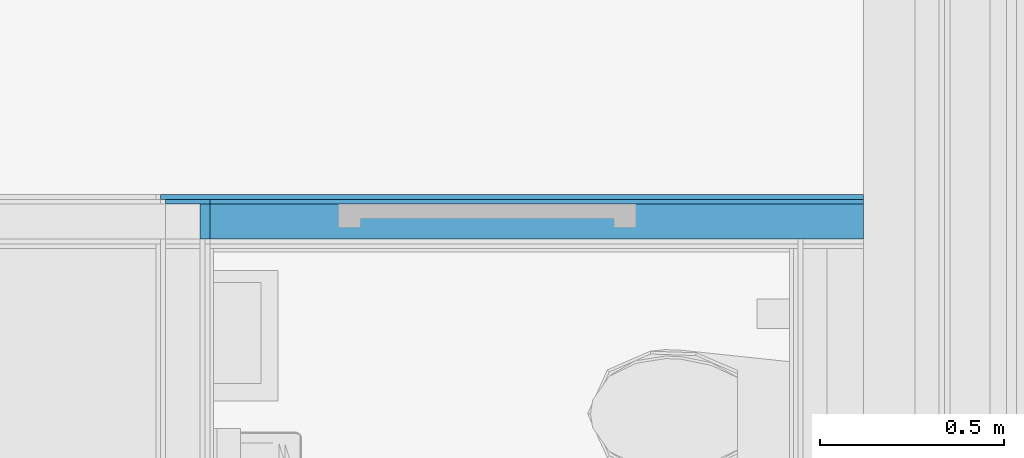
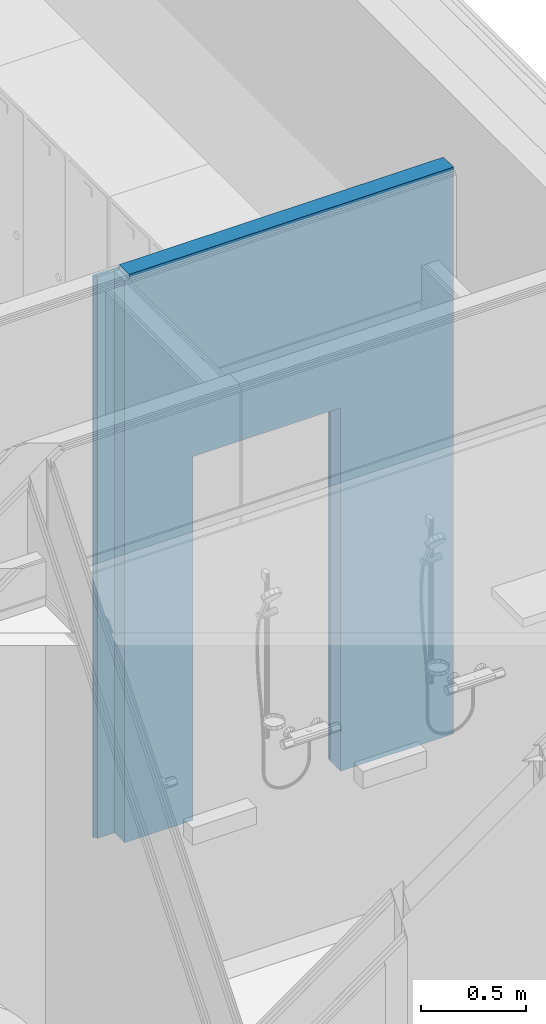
# One storey, part 83 of 153: 3 building element parts, 1 opening, 1 element without a shape of its own.
"""IFC2X3 building model written with IfcOpenShell, lengths in millimetres."""

from ifc_helpers import new_model, entity, si_unit, converted_unit, derived_unit, money_unit, direction, frame, origin_with_axes, place, context, subcontext, project, spatial, faceted_brep, material, type_object, element, aggregate, save


model = new_model("IFC2X3")

# Units and contexts
model_context = context("Model", 3, precision=0.01, world=origin_with_axes(), true_north=direction((0.0, 1.0)))
body_context = subcontext(model_context, "Body", "Model", "MODEL_VIEW")
ifc_project = project(units=[si_unit("LENGTHUNIT", "METRE", prefix="MILLI"), si_unit("AREAUNIT", "SQUARE_METRE"), si_unit("VOLUMEUNIT", "CUBIC_METRE"), converted_unit("PLANEANGLEUNIT", "DEGREE", entity("IfcPlaneAngleMeasure", 0.0174532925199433), si_unit("PLANEANGLEUNIT", "RADIAN"), dimensions=[0, 0, 0, 0, 0, 0, 0]), money_unit("EUR"), converted_unit("TIMEUNIT", "Year", entity("IfcTimeMeasure", 31557600.0), si_unit("TIMEUNIT", "SECOND"), dimensions=[0, 0, 1, 0, 0, 0, 0]), si_unit("MASSUNIT", "GRAM", prefix="KILO"), si_unit("THERMODYNAMICTEMPERATUREUNIT", "DEGREE_CELSIUS"), si_unit("LUMINOUSINTENSITYUNIT", "LUMEN"), si_unit("ENERGYUNIT", "JOULE", prefix="MEGA"), derived_unit("THERMALCONDUCTANCEUNIT", [(si_unit("POWERUNIT", "WATT"), 1), (si_unit("LENGTHUNIT", "METRE"), -1), (si_unit("THERMODYNAMICTEMPERATUREUNIT", "KELVIN"), -1)]), derived_unit("SPECIFICHEATCAPACITYUNIT", [(si_unit("ENERGYUNIT", "JOULE"), 1), (si_unit("MASSUNIT", "GRAM", prefix="KILO"), -1), (si_unit("THERMODYNAMICTEMPERATUREUNIT", "KELVIN"), -1)]), derived_unit("MASSDENSITYUNIT", [(si_unit("MASSUNIT", "GRAM", prefix="KILO"), 1), (si_unit("VOLUMEUNIT", "CUBIC_METRE"), -1)])], contexts=[model_context])

# Site, building, storey
site_placement = place(None, frame((0.0, 0.0, 8650.0), z_axis=(0.0, 0.0, 1.0), x_axis=(1.0, 0.0, 0.0)))
site = spatial("IfcSite", under=ifc_project, at=site_placement, Name="43301:001:0844", CompositionType="ELEMENT")
building_placement = place(site_placement, origin_with_axes())
building = spatial("IfcBuilding", under=site, at=building_placement, Name="Kuressaare Ametikooli tuulikute mehaanikute õppekorpus", CompositionType="ELEMENT")
storey_placement = place(building_placement, frame((0.0, 0.0, 4100.0), z_axis=(0.0, 0.0, 1.0), x_axis=(1.0, 0.0, 0.0)))
storey = spatial("IfcBuildingStorey", under=building, at=storey_placement, Name="2.korrus", CompositionType="ELEMENT", Elevation=4100.0)

# Wall, opening, building element parts
wall_type = type_object("IfcWallType", Name="SS-2.2 147", PredefinedType="NOTDEFINED")
wall_placement = place(storey_placement, frame((131245.1591945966, 21634.06892395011, 0.0), z_axis=(0.0, 0.0, 1.0), x_axis=(1.0, 0.0, 0.0)))
wall = element("IfcWall", 1, at=wall_placement, inside=storey, type_object=wall_type, Name="Sisesein")
opening_placement = place(wall_placement, frame((754.9999999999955, 0.0, 0.0), z_axis=(0.0, 0.0, 1.0), x_axis=(1.0, 0.0, 0.0)))
element("IfcOpeningElement", 2, at=opening_placement, cuts=wall, Name="PU8", context=body_context, shape_type="Brep", body=[
    faceted_brep([(-405.0000000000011, -147.9999999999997, 2110.0), (-405.0000000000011, -147.9999999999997, 0.0), (405.0000000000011, -147.9999999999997, 0.0), (405.0000000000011, -147.9999999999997, 2110.0), (-405.0000000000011, 1.000000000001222, 2110.0), (-405.0000000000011, 1.000000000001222, 0.0), (405.0000000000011, 1.000000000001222, 0.0), (405.0000000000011, 1.000000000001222, 2110.0)], [[[0, 1, 2, 3]], [[4, 5, 1, 0]], [[5, 6, 2, 1]], [[6, 7, 3, 2]], [[7, 4, 0, 3]], [[6, 5, 4, 7]]]),
])
ifc_material_1 = material(Name="Kipsplaat")
building_element_part_1_placement = place(wall_placement, origin_with_axes())
building_element_part_1 = element("IfcBuildingElementPart", 3, at=building_element_part_1_placement, material=ifc_material_1, Name="Kipsplaat", context=body_context, shape_type="Brep", body=[
    faceted_brep([(349.9999999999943, 0.0, 2110.0), (349.9999999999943, 0.0, 0.0), (-133.9999999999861, 0.0, 0.0), (-133.9999999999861, 0.0, 3259.999999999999), (0.0, 0.0, 3259.999999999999), (0.0, 0.0, 3260.712739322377), (1779.787244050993, 0.0, 3260.712739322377), (1779.787244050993, 0.0, 0.0), (1159.999999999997, 0.0, 0.0), (1159.999999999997, 0.0, 2110.0), (349.9999999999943, -12.99999999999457, 2110.0), (349.9999999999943, -13.00000000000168, 0.0), (-133.9999999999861, -13.00000000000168, 0.0), (-133.9999999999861, -12.99999999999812, 3259.999999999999), (0.0, -12.99999999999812, 3259.999999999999), (0.0, -12.99999999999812, 3260.712739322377), (1779.787244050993, -12.99999999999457, 3260.712739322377), (1779.787244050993, -12.99999999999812, 0.0), (1159.999999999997, -12.99999999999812, 0.0), (1159.999999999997, -12.99999999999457, 2110.0)], [[[0, 1, 2, 3, 4, 5, 6, 7, 8, 9]], [[1, 0, 10, 11]], [[1, 11, 12, 2]], [[13, 3, 2, 12]], [[3, 13, 14, 4]], [[5, 4, 14, 15]], [[6, 5, 15, 16]], [[16, 17, 7, 6]], [[18, 8, 7, 17]], [[9, 8, 18, 19]], [[0, 9, 19, 10]], [[19, 18, 17, 16, 15, 14, 13, 12, 11, 10]]]),
])
building_element_part_2_placement = place(wall_placement, origin_with_axes())
building_element_part_2 = element("IfcBuildingElementPart", 4, at=building_element_part_2_placement, material=ifc_material_1, Name="Kipsplaat", context=body_context, shape_type="Brep", body=[
    faceted_brep([(349.9999999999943, -12.99999999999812, 2110.0), (349.9999999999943, -13.00000000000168, 0.0), (-121.0000000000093, -13.00000000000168, 0.0), (-121.0000000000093, -13.00000000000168, 3259.999999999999), (0.0, -12.99999999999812, 3259.999999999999), (0.0, -12.99999999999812, 3275.712739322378), (1779.787244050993, -12.99999999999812, 3275.712739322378), (1779.787244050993, -12.99999999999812, 0.0), (1159.999999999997, -12.99999999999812, 0.0), (1159.999999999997, -12.99999999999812, 2110.0), (349.9999999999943, -25.9999999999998, 2110.0), (349.9999999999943, -25.9999999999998, 0.0), (-121.0000000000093, -25.9999999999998, 0.0), (-121.0000000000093, -25.9999999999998, 3259.999999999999), (0.0, -25.9999999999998, 3259.999999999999), (0.0, -25.9999999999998, 3275.712739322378), (1779.787244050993, -25.9999999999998, 3275.712739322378), (1779.787244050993, -25.9999999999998, 0.0), (1159.999999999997, -25.9999999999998, 0.0), (1159.999999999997, -25.9999999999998, 2110.0)], [[[0, 1, 2, 3, 4, 5, 6, 7, 8, 9]], [[1, 0, 10, 11]], [[1, 11, 12, 2]], [[13, 3, 2, 12]], [[3, 13, 14, 4]], [[5, 4, 14, 15]], [[6, 5, 15, 16]], [[16, 17, 7, 6]], [[18, 8, 7, 17]], [[9, 8, 18, 19]], [[0, 9, 19, 10]], [[19, 18, 17, 16, 15, 14, 13, 12, 11, 10]]]),
])
ifc_material_2 = material(Name="Soojustus - Mineraalvill pehme")
building_element_part_3_placement = place(wall_placement, origin_with_axes())
building_element_part_3 = element("IfcBuildingElementPart", 5, at=building_element_part_3_placement, material=ifc_material_2, Name="Soojustus - Mineraalvill pehme", context=body_context, shape_type="Brep", body=[
    faceted_brep([(349.9999999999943, -25.9999999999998, 2110.0), (349.9999999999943, -25.9999999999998, 0.0), (-26.00000000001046, -25.9999999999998, 0.0), (-26.00000000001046, -25.9999999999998, 3259.999999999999), (0.0, -25.9999999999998, 3259.999999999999), (0.0, -25.9999999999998, 3289.999998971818), (1779.787244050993, -25.9999999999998, 3290.0), (1779.787244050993, -25.9999999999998, 0.0), (1159.999999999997, -25.9999999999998, 0.0), (1159.999999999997, -25.9999999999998, 2110.0), (349.9999999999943, -120.9999999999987, 2110.0), (349.9999999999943, -120.9999999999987, 0.0), (-26.00000000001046, -120.9999999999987, 0.0), (-26.00000000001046, -120.9999999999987, 3259.999999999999), (0.0, -120.9999999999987, 3259.999999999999), (0.0, -120.9999999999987, 3289.999998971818), (1779.787244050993, -120.9999999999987, 3290.0), (1779.787244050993, -120.9999999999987, 0.0), (1159.999999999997, -120.9999999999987, 0.0), (1159.999999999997, -120.9999999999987, 2110.0)], [[[0, 1, 2, 3, 4, 5, 6, 7, 8, 9]], [[1, 0, 10, 11]], [[1, 11, 12, 2]], [[3, 2, 12, 13]], [[13, 14, 4, 3]], [[15, 5, 4, 14]], [[6, 5, 15, 16]], [[16, 17, 7, 6]], [[18, 8, 7, 17]], [[9, 8, 18, 19]], [[0, 9, 19, 10]], [[19, 18, 17, 16, 15, 14, 13, 12, 11, 10]]]),
])
aggregate(wall, [building_element_part_1, building_element_part_2, building_element_part_3])

save(model, "model.ifc")
